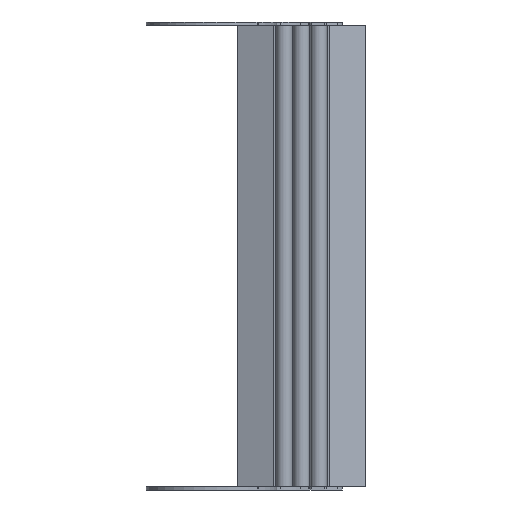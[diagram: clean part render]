
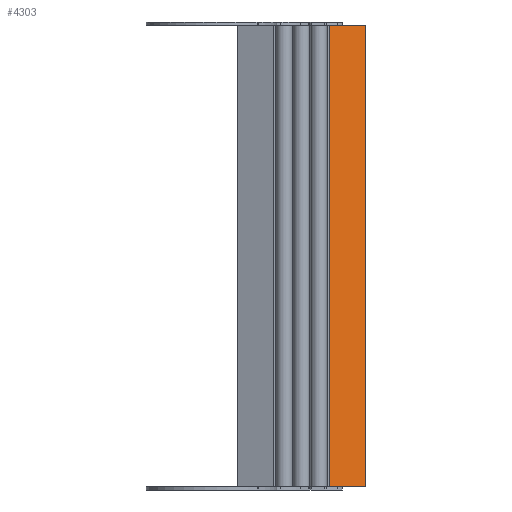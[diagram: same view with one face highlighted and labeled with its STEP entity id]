
A CAD part, front view. The second image highlights one B-rep face of the part: STEP entity #4303.
In plain terms, the highlighted planar face has unit normal (0.342, -0.94, 0).
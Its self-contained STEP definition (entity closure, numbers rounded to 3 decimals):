
#214 = VERTEX_POINT ( 'NONE', #2587 ) ;
#455 = VECTOR ( 'NONE', #7131, 1000. ) ;
#605 = DIRECTION ( 'NONE',  ( -0.342, 0.94, 0. ) ) ;
#726 = EDGE_CURVE ( 'NONE', #5154, #7040, #6234, .T. ) ;
#799 = LINE ( 'NONE', #1667, #455 ) ;
#813 = DIRECTION ( 'NONE',  ( -0.94, -0.342, 0. ) ) ;
#849 = EDGE_CURVE ( 'NONE', #4785, #5154, #5006, .T. ) ;
#933 = ORIENTED_EDGE ( 'NONE', *, *, #726, .F. ) ;
#998 = ORIENTED_EDGE ( 'NONE', *, *, #4100, .T. ) ;
#1465 = ORIENTED_EDGE ( 'NONE', *, *, #4309, .T. ) ;
#1667 = CARTESIAN_POINT ( 'NONE',  ( 108.255, 61.65, 0. ) ) ;
#1689 = CARTESIAN_POINT ( 'NONE',  ( 108.255, 61.65, -424. ) ) ;
#1704 = VECTOR ( 'NONE', #4539, 1000. ) ;
#2208 = ORIENTED_EDGE ( 'NONE', *, *, #6947, .T. ) ;
#2385 = CARTESIAN_POINT ( 'NONE',  ( 114.569, 63.948, -424. ) ) ;
#2443 = VERTEX_POINT ( 'NONE', #4351 ) ;
#2587 = CARTESIAN_POINT ( 'NONE',  ( 114.569, 63.948, 0. ) ) ;
#2821 = CARTESIAN_POINT ( 'NONE',  ( 108.255, 61.65, 0. ) ) ;
#2971 = CARTESIAN_POINT ( 'NONE',  ( 108.255, 61.65, -424. ) ) ;
#3009 = AXIS2_PLACEMENT_3D ( 'NONE', #3888, #605, #5479 ) ;
#3137 = CARTESIAN_POINT ( 'NONE',  ( 108.255, 61.65, -424. ) ) ;
#3604 = ORIENTED_EDGE ( 'NONE', *, *, #4806, .F. ) ;
#3888 = CARTESIAN_POINT ( 'NONE',  ( 108.255, 61.65, -424. ) ) ;
#3914 = ORIENTED_EDGE ( 'NONE', *, *, #849, .F. ) ;
#4100 = EDGE_CURVE ( 'NONE', #5777, #2443, #5050, .T. ) ;
#4112 = VECTOR ( 'NONE', #813, 1000. ) ;
#4303 = ADVANCED_FACE ( 'NONE', ( #4807 ), #6082, .F. ) ;
#4309 = EDGE_CURVE ( 'NONE', #2443, #214, #799, .T. ) ;
#4351 = CARTESIAN_POINT ( 'NONE',  ( 141.6, 73.787, 0. ) ) ;
#4424 = DIRECTION ( 'NONE',  ( -0.94, -0.342, 0. ) ) ;
#4539 = DIRECTION ( 'NONE',  ( 0., 0., 1. ) ) ;
#4760 = LINE ( 'NONE', #6088, #6245 ) ;
#4785 = VERTEX_POINT ( 'NONE', #2385 ) ;
#4787 = CARTESIAN_POINT ( 'NONE',  ( 108.255, 61.65, -424. ) ) ;
#4806 = EDGE_CURVE ( 'NONE', #5777, #4785, #5666, .T. ) ;
#4807 = FACE_OUTER_BOUND ( 'NONE', #6336, .T. ) ;
#4828 = VECTOR ( 'NONE', #6102, 1000. ) ;
#5006 = LINE ( 'NONE', #1689, #4828 ) ;
#5050 = LINE ( 'NONE', #5764, #1704 ) ;
#5095 = CARTESIAN_POINT ( 'NONE',  ( 141.6, 73.787, -424. ) ) ;
#5154 = VERTEX_POINT ( 'NONE', #4787 ) ;
#5479 = DIRECTION ( 'NONE',  ( -0.94, -0.342, 0. ) ) ;
#5666 = LINE ( 'NONE', #2971, #4112 ) ;
#5764 = CARTESIAN_POINT ( 'NONE',  ( 141.6, 73.787, -424. ) ) ;
#5777 = VERTEX_POINT ( 'NONE', #5095 ) ;
#6082 = PLANE ( 'NONE',  #3009 ) ;
#6088 = CARTESIAN_POINT ( 'NONE',  ( 108.255, 61.65, 0. ) ) ;
#6102 = DIRECTION ( 'NONE',  ( -0.94, -0.342, 0. ) ) ;
#6234 = LINE ( 'NONE', #3137, #6412 ) ;
#6245 = VECTOR ( 'NONE', #4424, 1000. ) ;
#6336 = EDGE_LOOP ( 'NONE', ( #1465, #2208, #933, #3914, #3604, #998 ) ) ;
#6404 = DIRECTION ( 'NONE',  ( 0., 0., 1. ) ) ;
#6412 = VECTOR ( 'NONE', #6404, 1000. ) ;
#6947 = EDGE_CURVE ( 'NONE', #214, #7040, #4760, .T. ) ;
#7040 = VERTEX_POINT ( 'NONE', #2821 ) ;
#7131 = DIRECTION ( 'NONE',  ( -0.94, -0.342, 0. ) ) ;
